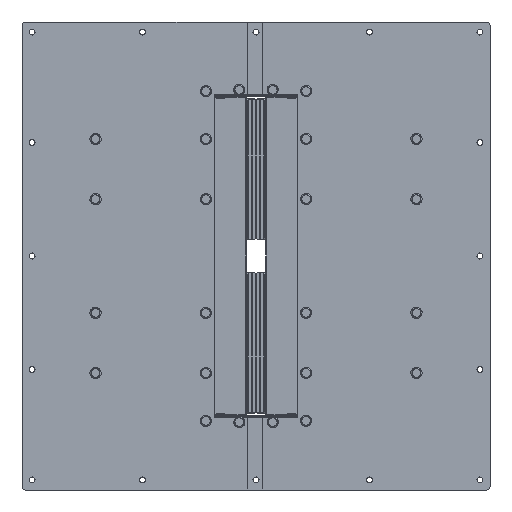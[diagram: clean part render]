
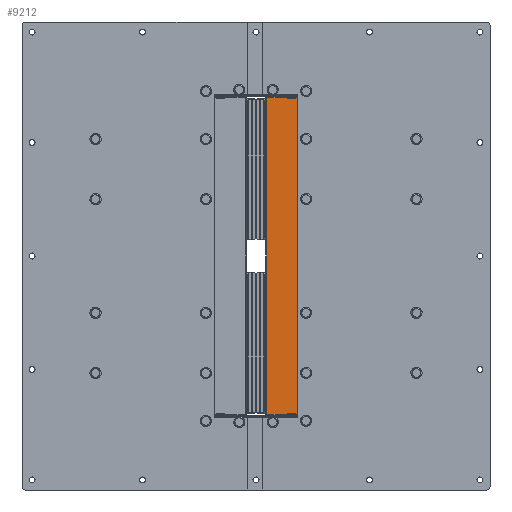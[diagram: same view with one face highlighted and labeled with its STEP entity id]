
A CAD part, left-side view. The second image highlights one B-rep face of the part: STEP entity #9212.
In plain terms, the highlighted planar face has unit normal (-1, 0, 0).
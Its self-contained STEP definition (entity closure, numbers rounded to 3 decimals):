
#8278=AXIS2_PLACEMENT_3D('Plane Axis2P3D',#8275,#8276,#8277) ;
#8412=AXIS2_PLACEMENT_3D('Circle Axis2P3D',#8410,#8411,$) ;
#8474=AXIS2_PLACEMENT_3D('Circle Axis2P3D',#8472,#8473,$) ;
#8750=AXIS2_PLACEMENT_3D('Circle Axis2P3D',#8748,#8749,$) ;
#8798=AXIS2_PLACEMENT_3D('Circle Axis2P3D',#8796,#8797,$) ;
#9106=AXIS2_PLACEMENT_3D('Circle Axis2P3D',#9104,#9105,$) ;
#9115=AXIS2_PLACEMENT_3D('Circle Axis2P3D',#9113,#9114,$) ;
#9124=AXIS2_PLACEMENT_3D('Circle Axis2P3D',#9122,#9123,$) ;
#9133=AXIS2_PLACEMENT_3D('Circle Axis2P3D',#9131,#9132,$) ;
#9142=AXIS2_PLACEMENT_3D('Circle Axis2P3D',#9140,#9141,$) ;
#9151=AXIS2_PLACEMENT_3D('Circle Axis2P3D',#9149,#9150,$) ;
#9160=AXIS2_PLACEMENT_3D('Circle Axis2P3D',#9158,#9159,$) ;
#9169=AXIS2_PLACEMENT_3D('Circle Axis2P3D',#9167,#9168,$) ;
#9178=AXIS2_PLACEMENT_3D('Circle Axis2P3D',#9176,#9177,$) ;
#9187=AXIS2_PLACEMENT_3D('Circle Axis2P3D',#9185,#9186,$) ;
#9196=AXIS2_PLACEMENT_3D('Circle Axis2P3D',#9194,#9195,$) ;
#9205=AXIS2_PLACEMENT_3D('Circle Axis2P3D',#9203,#9204,$) ;
#8275=CARTESIAN_POINT('Axis2P3D Location',(0.,0.,0.)) ;
#8316=CARTESIAN_POINT('Vertex',(0.,-60.,238.5)) ;
#8321=CARTESIAN_POINT('Line Origine',(0.,-60.,249.25)) ;
#8325=CARTESIAN_POINT('Vertex',(0.,-60.,260.)) ;
#8379=CARTESIAN_POINT('Line Origine',(0.,-69.,260.)) ;
#8383=CARTESIAN_POINT('Vertex',(0.,-78.,260.)) ;
#8410=CARTESIAN_POINT('Axis2P3D Location',(0.,-78.,255.)) ;
#8414=CARTESIAN_POINT('Vertex',(0.,-83.,255.)) ;
#8441=CARTESIAN_POINT('Line Origine',(0.,-83.,0.)) ;
#8445=CARTESIAN_POINT('Vertex',(0.,-83.,-255.)) ;
#8472=CARTESIAN_POINT('Axis2P3D Location',(0.,-78.,-255.)) ;
#8476=CARTESIAN_POINT('Vertex',(0.,-78.,-260.)) ;
#8503=CARTESIAN_POINT('Line Origine',(0.,-69.,-260.)) ;
#8507=CARTESIAN_POINT('Vertex',(0.,-60.,-260.)) ;
#8529=CARTESIAN_POINT('Line Origine',(0.,-60.,-249.25)) ;
#8533=CARTESIAN_POINT('Vertex',(0.,-60.,-238.5)) ;
#8573=CARTESIAN_POINT('Vertex',(0.,-57.5,237.)) ;
#8576=CARTESIAN_POINT('Line Origine',(0.,-57.5,237.75)) ;
#8580=CARTESIAN_POINT('Vertex',(0.,-57.5,238.5)) ;
#8611=CARTESIAN_POINT('Vertex',(0.,-16.22,237.)) ;
#8614=CARTESIAN_POINT('Line Origine',(0.,-36.86,237.)) ;
#8745=CARTESIAN_POINT('Vertex',(0.,-15.72,236.5)) ;
#8748=CARTESIAN_POINT('Axis2P3D Location',(0.,-16.22,236.5)) ;
#8769=CARTESIAN_POINT('Vertex',(0.,-15.72,-236.5)) ;
#8772=CARTESIAN_POINT('Line Origine',(0.,-15.72,0.)) ;
#8793=CARTESIAN_POINT('Vertex',(0.,-16.22,-237.)) ;
#8796=CARTESIAN_POINT('Axis2P3D Location',(0.,-16.22,-236.5)) ;
#8817=CARTESIAN_POINT('Vertex',(0.,-57.5,-237.)) ;
#8820=CARTESIAN_POINT('Line Origine',(0.,-36.86,-237.)) ;
#8836=CARTESIAN_POINT('Vertex',(0.,-57.5,-238.5)) ;
#8839=CARTESIAN_POINT('Line Origine',(0.,-57.5,-237.75)) ;
#8878=CARTESIAN_POINT('Line Origine',(0.,-58.75,-238.5)) ;
#8939=CARTESIAN_POINT('Line Origine',(0.,-58.75,238.5)) ;
#9104=CARTESIAN_POINT('Axis2P3D Location',(0.,-73.5,175.)) ;
#9108=CARTESIAN_POINT('Vertex',(0.,-79.,175.)) ;
#9110=CARTESIAN_POINT('Vertex',(0.,-68.,175.)) ;
#9113=CARTESIAN_POINT('Axis2P3D Location',(0.,-73.5,175.)) ;
#9122=CARTESIAN_POINT('Axis2P3D Location',(0.,-73.5,85.)) ;
#9126=CARTESIAN_POINT('Vertex',(0.,-79.,85.)) ;
#9128=CARTESIAN_POINT('Vertex',(0.,-68.,85.)) ;
#9131=CARTESIAN_POINT('Axis2P3D Location',(0.,-73.5,85.)) ;
#9140=CARTESIAN_POINT('Axis2P3D Location',(0.,-73.5,-85.)) ;
#9144=CARTESIAN_POINT('Vertex',(0.,-79.,-85.)) ;
#9146=CARTESIAN_POINT('Vertex',(0.,-68.,-85.)) ;
#9149=CARTESIAN_POINT('Axis2P3D Location',(0.,-73.5,-85.)) ;
#9158=CARTESIAN_POINT('Axis2P3D Location',(0.,-73.5,-175.)) ;
#9162=CARTESIAN_POINT('Vertex',(0.,-79.,-175.)) ;
#9164=CARTESIAN_POINT('Vertex',(0.,-68.,-175.)) ;
#9167=CARTESIAN_POINT('Axis2P3D Location',(0.,-73.5,-175.)) ;
#9176=CARTESIAN_POINT('Axis2P3D Location',(0.,-73.5,246.5)) ;
#9180=CARTESIAN_POINT('Vertex',(0.,-79.,246.5)) ;
#9182=CARTESIAN_POINT('Vertex',(0.,-68.,246.5)) ;
#9185=CARTESIAN_POINT('Axis2P3D Location',(0.,-73.5,246.5)) ;
#9194=CARTESIAN_POINT('Axis2P3D Location',(0.,-73.5,-246.5)) ;
#9198=CARTESIAN_POINT('Vertex',(0.,-79.,-246.5)) ;
#9200=CARTESIAN_POINT('Vertex',(0.,-68.,-246.5)) ;
#9203=CARTESIAN_POINT('Axis2P3D Location',(0.,-73.5,-246.5)) ;
#8276=DIRECTION('Axis2P3D Direction',(1.,0.,0.)) ;
#8277=DIRECTION('Axis2P3D XDirection',(0.,1.,0.)) ;
#8322=DIRECTION('Vector Direction',(0.,0.,-1.)) ;
#8380=DIRECTION('Vector Direction',(0.,-1.,0.)) ;
#8411=DIRECTION('Axis2P3D Direction',(1.,0.,0.)) ;
#8442=DIRECTION('Vector Direction',(0.,0.,1.)) ;
#8473=DIRECTION('Axis2P3D Direction',(1.,0.,0.)) ;
#8504=DIRECTION('Vector Direction',(0.,1.,0.)) ;
#8530=DIRECTION('Vector Direction',(0.,0.,-1.)) ;
#8577=DIRECTION('Vector Direction',(0.,0.,-1.)) ;
#8615=DIRECTION('Vector Direction',(0.,1.,0.)) ;
#8749=DIRECTION('Axis2P3D Direction',(1.,0.,0.)) ;
#8773=DIRECTION('Vector Direction',(0.,0.,1.)) ;
#8797=DIRECTION('Axis2P3D Direction',(1.,0.,0.)) ;
#8821=DIRECTION('Vector Direction',(0.,-1.,0.)) ;
#8840=DIRECTION('Vector Direction',(0.,0.,-1.)) ;
#8879=DIRECTION('Vector Direction',(0.,1.,0.)) ;
#8940=DIRECTION('Vector Direction',(0.,-1.,0.)) ;
#9105=DIRECTION('Axis2P3D Direction',(1.,0.,0.)) ;
#9114=DIRECTION('Axis2P3D Direction',(1.,0.,0.)) ;
#9123=DIRECTION('Axis2P3D Direction',(1.,0.,0.)) ;
#9132=DIRECTION('Axis2P3D Direction',(1.,0.,0.)) ;
#9141=DIRECTION('Axis2P3D Direction',(1.,0.,0.)) ;
#9150=DIRECTION('Axis2P3D Direction',(1.,0.,0.)) ;
#9159=DIRECTION('Axis2P3D Direction',(1.,0.,0.)) ;
#9168=DIRECTION('Axis2P3D Direction',(1.,0.,0.)) ;
#9177=DIRECTION('Axis2P3D Direction',(1.,0.,0.)) ;
#9186=DIRECTION('Axis2P3D Direction',(1.,0.,0.)) ;
#9195=DIRECTION('Axis2P3D Direction',(1.,0.,0.)) ;
#9204=DIRECTION('Axis2P3D Direction',(1.,0.,0.)) ;
#8323=VECTOR('Line Direction',#8322,1.) ;
#8381=VECTOR('Line Direction',#8380,1.) ;
#8443=VECTOR('Line Direction',#8442,1.) ;
#8505=VECTOR('Line Direction',#8504,1.) ;
#8531=VECTOR('Line Direction',#8530,1.) ;
#8578=VECTOR('Line Direction',#8577,1.) ;
#8616=VECTOR('Line Direction',#8615,1.) ;
#8774=VECTOR('Line Direction',#8773,1.) ;
#8822=VECTOR('Line Direction',#8821,1.) ;
#8841=VECTOR('Line Direction',#8840,1.) ;
#8880=VECTOR('Line Direction',#8879,1.) ;
#8941=VECTOR('Line Direction',#8940,1.) ;
#9087=ORIENTED_EDGE('',*,*,#8582,.T.) ;
#9088=ORIENTED_EDGE('',*,*,#8618,.T.) ;
#9089=ORIENTED_EDGE('',*,*,#8752,.T.) ;
#9090=ORIENTED_EDGE('',*,*,#8776,.T.) ;
#9091=ORIENTED_EDGE('',*,*,#8800,.T.) ;
#9092=ORIENTED_EDGE('',*,*,#8824,.T.) ;
#9093=ORIENTED_EDGE('',*,*,#8843,.T.) ;
#9094=ORIENTED_EDGE('',*,*,#8882,.F.) ;
#9095=ORIENTED_EDGE('',*,*,#8535,.F.) ;
#9096=ORIENTED_EDGE('',*,*,#8509,.F.) ;
#9097=ORIENTED_EDGE('',*,*,#8478,.F.) ;
#9098=ORIENTED_EDGE('',*,*,#8447,.F.) ;
#9099=ORIENTED_EDGE('',*,*,#8416,.F.) ;
#9100=ORIENTED_EDGE('',*,*,#8385,.F.) ;
#9101=ORIENTED_EDGE('',*,*,#8327,.F.) ;
#9102=ORIENTED_EDGE('',*,*,#8943,.F.) ;
#9119=ORIENTED_EDGE('',*,*,#9112,.T.) ;
#9120=ORIENTED_EDGE('',*,*,#9117,.T.) ;
#9137=ORIENTED_EDGE('',*,*,#9130,.T.) ;
#9138=ORIENTED_EDGE('',*,*,#9135,.T.) ;
#9155=ORIENTED_EDGE('',*,*,#9148,.T.) ;
#9156=ORIENTED_EDGE('',*,*,#9153,.T.) ;
#9173=ORIENTED_EDGE('',*,*,#9166,.T.) ;
#9174=ORIENTED_EDGE('',*,*,#9171,.T.) ;
#9191=ORIENTED_EDGE('',*,*,#9184,.T.) ;
#9192=ORIENTED_EDGE('',*,*,#9189,.T.) ;
#9209=ORIENTED_EDGE('',*,*,#9202,.T.) ;
#9210=ORIENTED_EDGE('',*,*,#9207,.T.) ;
#9121=FACE_BOUND('',#9118,.T.) ;
#9139=FACE_BOUND('',#9136,.T.) ;
#9157=FACE_BOUND('',#9154,.T.) ;
#9175=FACE_BOUND('',#9172,.T.) ;
#9193=FACE_BOUND('',#9190,.T.) ;
#9211=FACE_BOUND('',#9208,.T.) ;
#9212=ADVANCED_FACE('Laterale(L3)',(#9103,#9121,#9139,#9157,#9175,#9193,#9211),#8279,.F.) ;
#8413=CIRCLE('generated circle',#8412,5.) ;
#8475=CIRCLE('generated circle',#8474,5.) ;
#8751=CIRCLE('generated circle',#8750,0.5) ;
#8799=CIRCLE('generated circle',#8798,0.5) ;
#9107=CIRCLE('generated circle',#9106,5.5) ;
#9116=CIRCLE('generated circle',#9115,5.5) ;
#9125=CIRCLE('generated circle',#9124,5.5) ;
#9134=CIRCLE('generated circle',#9133,5.5) ;
#9143=CIRCLE('generated circle',#9142,5.5) ;
#9152=CIRCLE('generated circle',#9151,5.5) ;
#9161=CIRCLE('generated circle',#9160,5.5) ;
#9170=CIRCLE('generated circle',#9169,5.5) ;
#9179=CIRCLE('generated circle',#9178,5.5) ;
#9188=CIRCLE('generated circle',#9187,5.5) ;
#9197=CIRCLE('generated circle',#9196,5.5) ;
#9206=CIRCLE('generated circle',#9205,5.5) ;
#8327=EDGE_CURVE('',#8317,#8326,#8324,.F.) ;
#8385=EDGE_CURVE('',#8326,#8384,#8382,.T.) ;
#8416=EDGE_CURVE('',#8384,#8415,#8413,.T.) ;
#8447=EDGE_CURVE('',#8415,#8446,#8444,.F.) ;
#8478=EDGE_CURVE('',#8446,#8477,#8475,.T.) ;
#8509=EDGE_CURVE('',#8477,#8508,#8506,.T.) ;
#8535=EDGE_CURVE('',#8508,#8534,#8532,.F.) ;
#8582=EDGE_CURVE('',#8581,#8574,#8579,.T.) ;
#8618=EDGE_CURVE('',#8574,#8612,#8617,.T.) ;
#8752=EDGE_CURVE('',#8612,#8746,#8751,.F.) ;
#8776=EDGE_CURVE('',#8746,#8770,#8775,.F.) ;
#8800=EDGE_CURVE('',#8770,#8794,#8799,.F.) ;
#8824=EDGE_CURVE('',#8794,#8818,#8823,.T.) ;
#8843=EDGE_CURVE('',#8818,#8837,#8842,.T.) ;
#8882=EDGE_CURVE('',#8534,#8837,#8881,.T.) ;
#8943=EDGE_CURVE('',#8581,#8317,#8942,.T.) ;
#9112=EDGE_CURVE('',#9109,#9111,#9107,.T.) ;
#9117=EDGE_CURVE('',#9111,#9109,#9116,.T.) ;
#9130=EDGE_CURVE('',#9127,#9129,#9125,.T.) ;
#9135=EDGE_CURVE('',#9129,#9127,#9134,.T.) ;
#9148=EDGE_CURVE('',#9145,#9147,#9143,.T.) ;
#9153=EDGE_CURVE('',#9147,#9145,#9152,.T.) ;
#9166=EDGE_CURVE('',#9163,#9165,#9161,.T.) ;
#9171=EDGE_CURVE('',#9165,#9163,#9170,.T.) ;
#9184=EDGE_CURVE('',#9181,#9183,#9179,.T.) ;
#9189=EDGE_CURVE('',#9183,#9181,#9188,.T.) ;
#9202=EDGE_CURVE('',#9199,#9201,#9197,.T.) ;
#9207=EDGE_CURVE('',#9201,#9199,#9206,.T.) ;
#9086=EDGE_LOOP('',(#9087,#9088,#9089,#9090,#9091,#9092,#9093,#9094,#9095,#9096,#9097,#9098,#9099,#9100,#9101,#9102)) ;
#9118=EDGE_LOOP('',(#9119,#9120)) ;
#9136=EDGE_LOOP('',(#9137,#9138)) ;
#9154=EDGE_LOOP('',(#9155,#9156)) ;
#9172=EDGE_LOOP('',(#9173,#9174)) ;
#9190=EDGE_LOOP('',(#9191,#9192)) ;
#9208=EDGE_LOOP('',(#9209,#9210)) ;
#9103=FACE_OUTER_BOUND('',#9086,.T.) ;
#8324=LINE('Line',#8321,#8323) ;
#8382=LINE('Line',#8379,#8381) ;
#8444=LINE('Line',#8441,#8443) ;
#8506=LINE('Line',#8503,#8505) ;
#8532=LINE('Line',#8529,#8531) ;
#8579=LINE('Line',#8576,#8578) ;
#8617=LINE('Line',#8614,#8616) ;
#8775=LINE('Line',#8772,#8774) ;
#8823=LINE('Line',#8820,#8822) ;
#8842=LINE('Line',#8839,#8841) ;
#8881=LINE('Line',#8878,#8880) ;
#8942=LINE('Line',#8939,#8941) ;
#8279=PLANE('',#8278) ;
#8317=VERTEX_POINT('',#8316) ;
#8326=VERTEX_POINT('',#8325) ;
#8384=VERTEX_POINT('',#8383) ;
#8415=VERTEX_POINT('',#8414) ;
#8446=VERTEX_POINT('',#8445) ;
#8477=VERTEX_POINT('',#8476) ;
#8508=VERTEX_POINT('',#8507) ;
#8534=VERTEX_POINT('',#8533) ;
#8574=VERTEX_POINT('',#8573) ;
#8581=VERTEX_POINT('',#8580) ;
#8612=VERTEX_POINT('',#8611) ;
#8746=VERTEX_POINT('',#8745) ;
#8770=VERTEX_POINT('',#8769) ;
#8794=VERTEX_POINT('',#8793) ;
#8818=VERTEX_POINT('',#8817) ;
#8837=VERTEX_POINT('',#8836) ;
#9109=VERTEX_POINT('',#9108) ;
#9111=VERTEX_POINT('',#9110) ;
#9127=VERTEX_POINT('',#9126) ;
#9129=VERTEX_POINT('',#9128) ;
#9145=VERTEX_POINT('',#9144) ;
#9147=VERTEX_POINT('',#9146) ;
#9163=VERTEX_POINT('',#9162) ;
#9165=VERTEX_POINT('',#9164) ;
#9181=VERTEX_POINT('',#9180) ;
#9183=VERTEX_POINT('',#9182) ;
#9199=VERTEX_POINT('',#9198) ;
#9201=VERTEX_POINT('',#9200) ;
